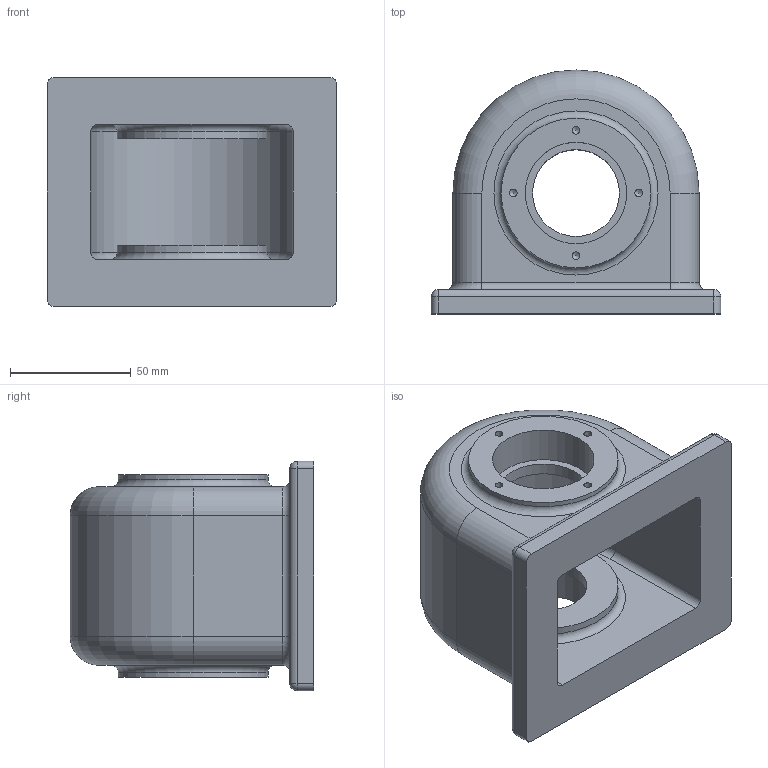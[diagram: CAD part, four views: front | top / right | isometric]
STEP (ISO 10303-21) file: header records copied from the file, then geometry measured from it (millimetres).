
FILE_DESCRIPTION((''),'2;1');
FILE_NAME('C:\Users\05-01\Desktop\380736E1003\본체.stp','2018-07-21T16:41:12',('05-01'),(''),'Autodesk Inventor 2013','Autodesk Inventor 2013','');
FILE_SCHEMA(('AUTOMOTIVE_DESIGN { 1 0 10303 214 1 1 1 1 }'));
Length unit declared in the file: millimetre
Products named in the file (1): 본체
Bounding box: 120 x 101 x 95 mm (x, y, z)
Volume: 329740.8 mm3; surface area: 76978.8 mm2
Topology: 1 solids, 1 shells, 82 faces, 176 edges, 104 vertices
Faces by surface type: cylinder 38, plane 20, torus 12, cone 8, sphere 4
Full cylindrical faces by diameter (mm): 3.242 x8, 36 x2, 42 x2, 62 x4
Entity records: 2030 total; most frequent: DIRECTION 394, CARTESIAN_POINT 319, ORIENTED_EDGE 280, AXIS2_PLACEMENT_3D 171, EDGE_CURVE 140, EDGE_LOOP 122, VERTEX_POINT 96, CIRCLE 88
